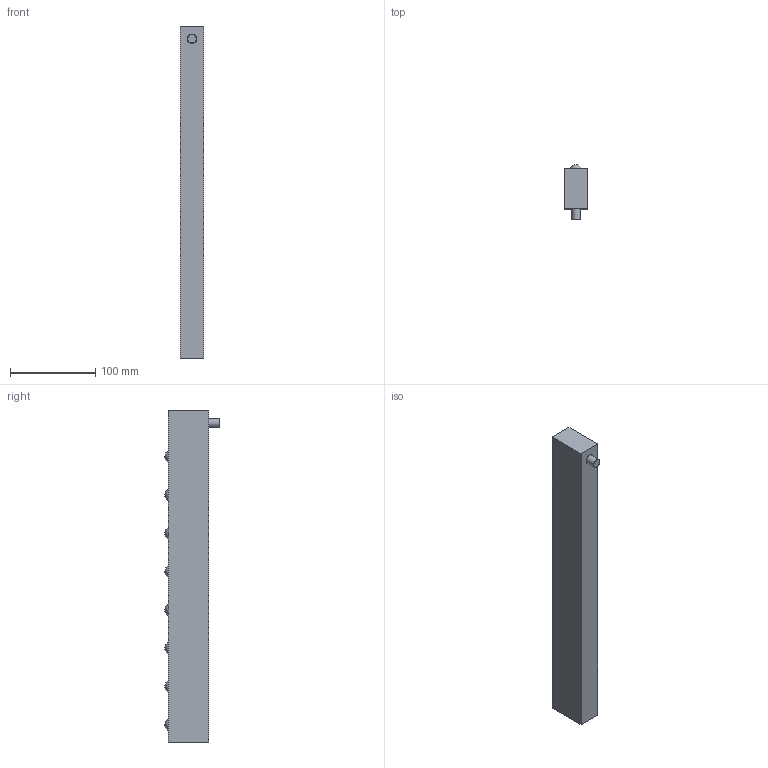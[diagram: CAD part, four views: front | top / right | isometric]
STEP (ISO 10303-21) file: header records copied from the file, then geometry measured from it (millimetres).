
FILE_DESCRIPTION(/* description */ (''),/* implementation_level */ '2;1');
FILE_NAME(/* name */ 'V:\Shrinkwrap\EMB\EMB - SHRINKWRAP\EMP28\EMB28-8_Shrinkwrap_1.stp',/* time_stamp */ '2022-08-12T11:22:12+02:00',/* author */ ('cw'),/* organization */ (''),/* preprocessor_version */ 'ST-DEVELOPER v17',/* originating_system */ 'Autodesk Inventor 2019',/* authorisation */ '');
FILE_SCHEMA (('AUTOMOTIVE_DESIGN { 1 0 10303 214 3 1 1 }'));
Length unit declared in the file: millimetre
Products named in the file (1): EMB28-8_Shrinkwrap_1
Bounding box: 27.8 x 64.05 x 390 mm (x, y, z)
Volume: 516057 mm3; surface area: 65838.8 mm2
Topology: 1 solids, 1 shells, 38 faces, 72 edges, 58 vertices
Faces by surface type: plane 18, cylinder 12, sphere 8
Full cylindrical faces by diameter (mm): 10 x1, 11 x1, 16 x1, 18 x1, 21.5 x8
Entity records: 1119 total; most frequent: DIRECTION 194, CARTESIAN_POINT 167, ORIENTED_EDGE 140, AXIS2_PLACEMENT_3D 85, EDGE_CURVE 70, EDGE_LOOP 58, VERTEX_POINT 54, CIRCLE 46
